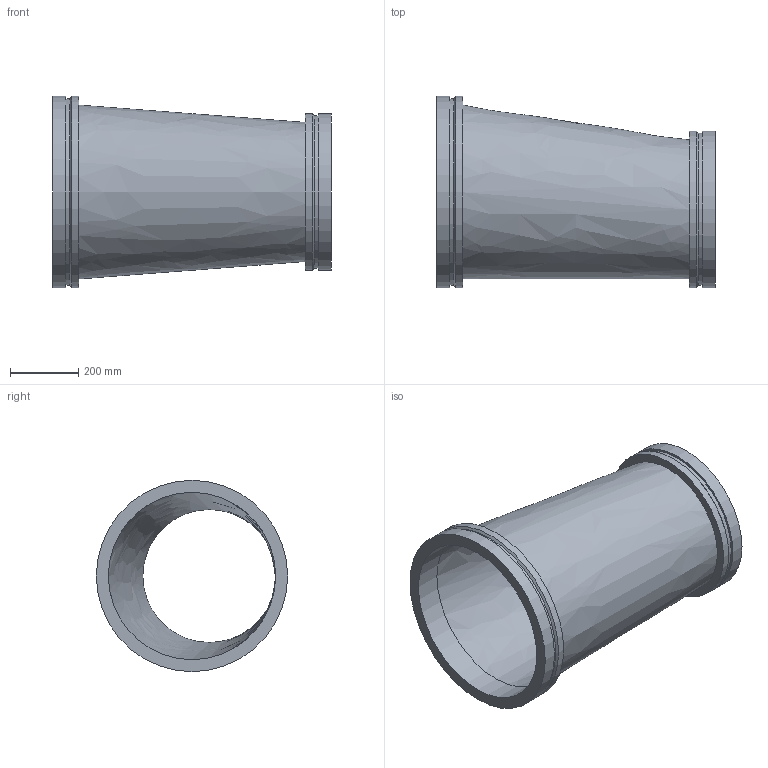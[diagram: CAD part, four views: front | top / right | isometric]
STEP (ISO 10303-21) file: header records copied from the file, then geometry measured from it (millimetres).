
FILE_DESCRIPTION(/* description */ ('VIC REDUCER ECCENTRIC No W51-VR','CAx-IF Rec.Pracs.---Representation and Presentation of Product Manufacturing Information (PMI)---4.0---2014-10-13'),/* implementation_level */ '2;1');
FILE_NAME(/* name */ 'C:\Users\kkamble\AppData\Roaming\Autodesk\ApplicationPlugins\Back Up\Victaulic_Vic-Ring_Reducer Eccentric_No W51 VR (AGR)\Victaulic_Vic-Ring_Reducer Eccentric_No W51 VR (AGR)_20.0x16.0 (500x400).stp',/* time_stamp */ '2020-09-10T11:49:07+05:00',/* author */ ('CONSTRUCTION PIPING SERVICES'),/* organization */ ('Victaulic'),/* preprocessor_version */ 'ST-DEVELOPER v17.2',/* originating_system */ 'Autodesk Inventor 2019',/* authorisation */ '');
FILE_SCHEMA (('AP242_MANAGED_MODEL_BASED_3D_ENGINEERING_MIM_LF { 1 0 10303 442 1 1 4 }'));
Length unit declared in the file: inch
Products named in the file (1): W51 VR-20.0x16.0
Bounding box: 812.8 x 558.8 x 558.8 mm (x, y, z)
Volume: 16089998.1 mm3; surface area: 2528828.6 mm2
Topology: 1 solids, 1 shells, 18 faces, 52 edges, 40 vertices
Faces by surface type: cylinder 8, plane 6, cone 2, bspline 2
Full cylindrical faces by diameter (mm): 388.823 x1, 444.5 x1, 457.2 x2, 488.95 x1, 546.1 x1, 558.8 x2
Entity records: 822 total; most frequent: CARTESIAN_POINT 164, DIRECTION 150, ORIENTED_EDGE 104, AXIS2_PLACEMENT_3D 70, EDGE_CURVE 52, CIRCLE 40, VERTEX_POINT 40, EDGE_LOOP 24
